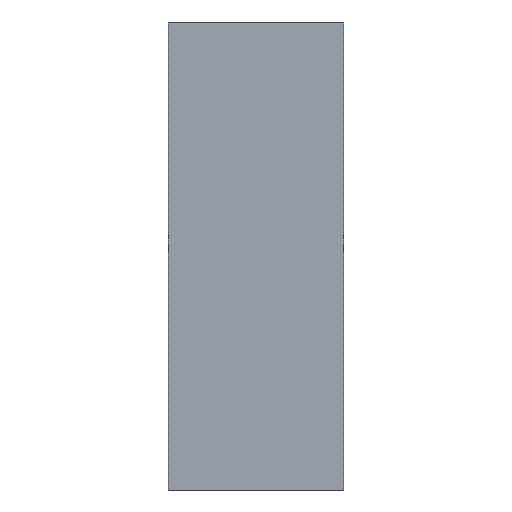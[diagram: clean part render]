
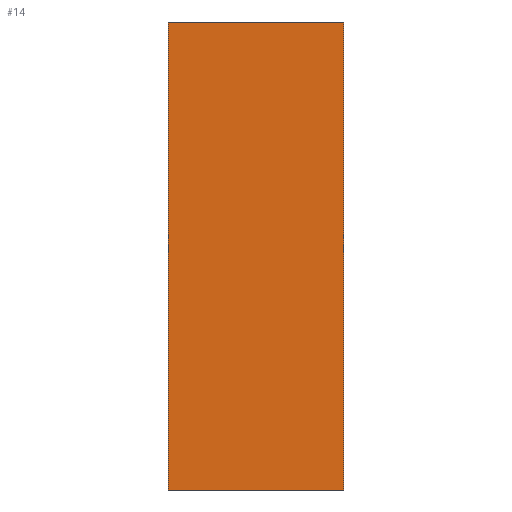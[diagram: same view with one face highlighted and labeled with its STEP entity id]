
A CAD part, front view. The second image highlights one B-rep face of the part: STEP entity #14.
In plain terms, the highlighted planar face has unit normal (0, -1, 0).
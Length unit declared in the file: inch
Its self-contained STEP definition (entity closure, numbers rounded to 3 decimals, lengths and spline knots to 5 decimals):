
#14=ADVANCED_FACE('',(#20),#88,.T.);
#20=FACE_OUTER_BOUND('',#26,.T.);
#26=EDGE_LOOP('',(#32,#33,#34,#35));
#32=ORIENTED_EDGE('',*,*,#56,.T.);
#33=ORIENTED_EDGE('',*,*,#65,.T.);
#34=ORIENTED_EDGE('',*,*,#60,.F.);
#35=ORIENTED_EDGE('',*,*,#64,.F.);
#56=EDGE_CURVE('',#80,#81,#68,.T.);
#60=EDGE_CURVE('',#84,#85,#72,.T.);
#64=EDGE_CURVE('',#80,#84,#76,.T.);
#65=EDGE_CURVE('',#81,#85,#77,.T.);
#68=B_SPLINE_CURVE_WITH_KNOTS('',1,(#217,#218),.UNSPECIFIED.,.F.,.F.,(2,
2),(0.,3.),.UNSPECIFIED.);
#72=B_SPLINE_CURVE_WITH_KNOTS('',1,(#225,#226),.UNSPECIFIED.,.F.,.F.,(2,
2),(0.,3.),.UNSPECIFIED.);
#76=B_SPLINE_CURVE_WITH_KNOTS('',1,(#233,#234),.UNSPECIFIED.,.F.,.F.,(2,
2),(0.,8.),.UNSPECIFIED.);
#77=B_SPLINE_CURVE_WITH_KNOTS('',1,(#235,#236),.UNSPECIFIED.,.F.,.F.,(2,
2),(0.,8.),.UNSPECIFIED.);
#80=VERTEX_POINT('',#209);
#81=VERTEX_POINT('',#210);
#84=VERTEX_POINT('',#213);
#85=VERTEX_POINT('',#214);
#88=PLANE('',#185);
#185=AXIS2_PLACEMENT_3D('',#203,#194,$);
#194=DIRECTION('',(0.,-1.,0.));
#203=CARTESIAN_POINT('',(0.,0.,0.));
#209=CARTESIAN_POINT('',(0.,0.,0.));
#210=CARTESIAN_POINT('',(3.,0.,0.));
#213=CARTESIAN_POINT('',(0.,0.,8.));
#214=CARTESIAN_POINT('',(3.,0.,8.));
#217=CARTESIAN_POINT('',(0.,0.,0.));
#218=CARTESIAN_POINT('',(3.,0.,0.));
#225=CARTESIAN_POINT('',(0.,0.,8.));
#226=CARTESIAN_POINT('',(3.,0.,8.));
#233=CARTESIAN_POINT('',(0.,0.,0.));
#234=CARTESIAN_POINT('',(0.,0.,8.));
#235=CARTESIAN_POINT('',(3.,0.,0.));
#236=CARTESIAN_POINT('',(3.,0.,8.));
